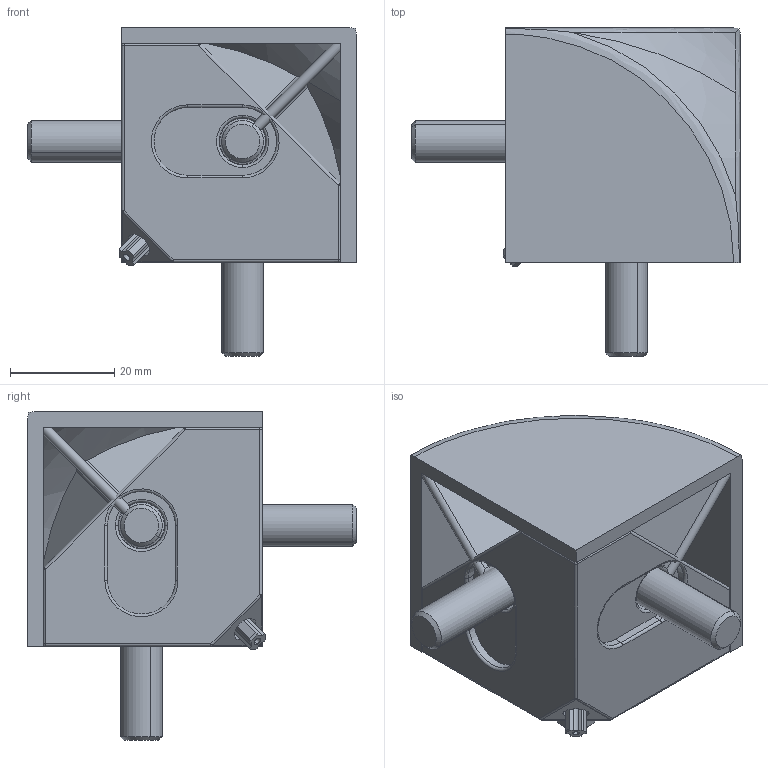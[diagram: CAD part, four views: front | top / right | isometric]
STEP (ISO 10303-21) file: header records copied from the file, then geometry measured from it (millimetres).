
FILE_DESCRIPTION (( 'STEP AP214' ), '1' );
FILE_NAME ('1.3027 Kulma 45 neliö.STEP', '2024-01-15T12:22:05', ( '' ), ( '' ), 'SwSTEP 2.0', 'SolidWorks 2024', '' );
FILE_SCHEMA (( 'AUTOMOTIVE_DESIGN' ));
Length unit declared in the file: millimetre
Products named in the file (1): 1.3027 Kulma 45 neliö
Bounding box: 63 x 63 x 63 mm (x, y, z)
Volume: 46290.9 mm3; surface area: 27630.2 mm2
Topology: 5 solids, 5 shells, 257 faces, 614 edges, 355 vertices
Faces by surface type: plane 100, cylinder 82, torus 30, sphere 20, bspline 13, cone 12
Entity records: 10494 total; most frequent: CARTESIAN_POINT 1826, DIRECTION 1240, ORIENTED_EDGE 1198, EDGE_CURVE 599, AXIS2_PLACEMENT_3D 471, VERTEX_POINT 355, LINE 298, VECTOR 298
